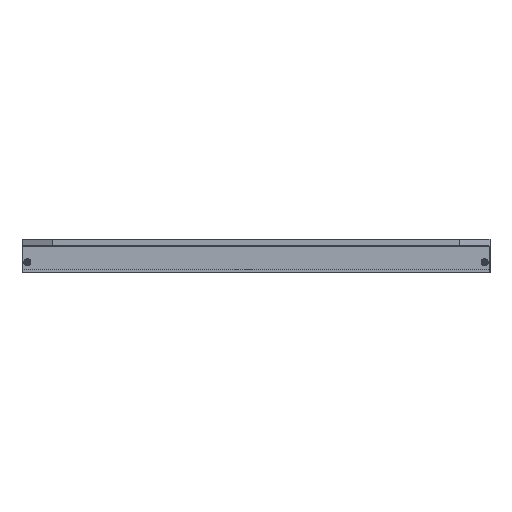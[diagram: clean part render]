
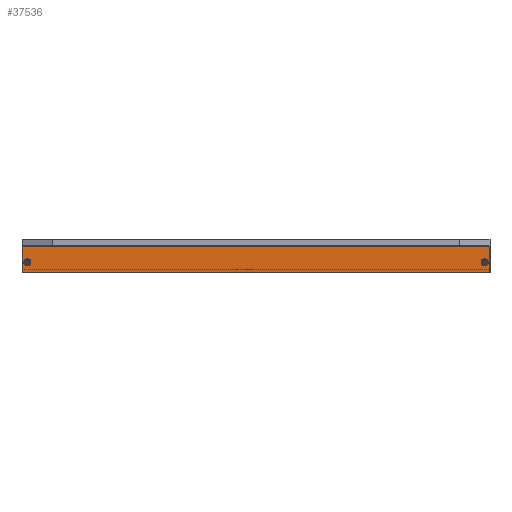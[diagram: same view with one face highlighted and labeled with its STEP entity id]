
A CAD part, front view. The second image highlights one B-rep face of the part: STEP entity #37536.
In plain terms, the highlighted planar face has unit normal (0, -1, 0).
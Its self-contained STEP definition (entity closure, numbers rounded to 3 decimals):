
#5261=DIRECTION('',(-1.,0.,0.));
#5262=VECTOR('',#5261,262.6);
#5263=CARTESIAN_POINT('',(131.3,-131.5,0.));
#5264=LINE('',#5263,#5262);
#11601=DIRECTION('',(0.,0.,-1.));
#11602=VECTOR('',#11601,14.8);
#11603=CARTESIAN_POINT('',(131.3,-131.5,0.));
#11604=LINE('',#11603,#11602);
#11605=CARTESIAN_POINT('',(-128.5,-131.5,-9.));
#11606=DIRECTION('',(0.,1.,0.));
#11607=DIRECTION('',(0.,0.,1.));
#11608=AXIS2_PLACEMENT_3D('',#11605,#11606,#11607);
#11610=CARTESIAN_POINT('',(-128.5,-131.5,-9.));
#11611=DIRECTION('',(0.,1.,0.));
#11612=DIRECTION('',(0.,0.,-1.));
#11613=AXIS2_PLACEMENT_3D('',#11610,#11611,#11612);
#11615=CARTESIAN_POINT('',(128.5,-131.5,-9.));
#11616=DIRECTION('',(0.,1.,0.));
#11617=DIRECTION('',(0.,0.,-1.));
#11618=AXIS2_PLACEMENT_3D('',#11615,#11616,#11617);
#11620=CARTESIAN_POINT('',(128.5,-131.5,-9.));
#11621=DIRECTION('',(0.,1.,0.));
#11622=DIRECTION('',(0.,0.,1.));
#11623=AXIS2_PLACEMENT_3D('',#11620,#11621,#11622);
#11625=DIRECTION('',(1.,0.,0.));
#11626=VECTOR('',#11625,262.6);
#11627=CARTESIAN_POINT('',(-131.3,-131.5,-14.8));
#11628=LINE('',#11627,#11626);
#11629=DIRECTION('',(0.,0.,-1.));
#11630=VECTOR('',#11629,14.8);
#11631=CARTESIAN_POINT('',(-131.3,-131.5,0.));
#11632=LINE('',#11631,#11630);
#16459=CARTESIAN_POINT('',(-131.3,-131.5,-14.8));
#16460=VERTEX_POINT('',#16459);
#16467=CARTESIAN_POINT('',(131.3,-131.5,-14.8));
#16468=VERTEX_POINT('',#16467);
#16469=CARTESIAN_POINT('',(128.5,-131.5,-7.));
#16470=CARTESIAN_POINT('',(128.5,-131.5,-11.));
#16471=VERTEX_POINT('',#16469);
#16472=VERTEX_POINT('',#16470);
#16473=CARTESIAN_POINT('',(-128.5,-131.5,-11.));
#16474=CARTESIAN_POINT('',(-128.5,-131.5,-7.));
#16475=VERTEX_POINT('',#16473);
#16476=VERTEX_POINT('',#16474);
#19821=CARTESIAN_POINT('',(-131.3,-131.5,0.));
#19823=VERTEX_POINT('',#19821);
#19824=CARTESIAN_POINT('',(131.3,-131.5,0.));
#19825=VERTEX_POINT('',#19824);
#37512=CARTESIAN_POINT('',(-131.5,-131.5,-15.));
#37513=DIRECTION('',(0.,-1.,0.));
#37514=DIRECTION('',(0.,0.,1.));
#37515=AXIS2_PLACEMENT_3D('',#37512,#37513,#37514);
#37516=PLANE('',#37515);
#37517=ORIENTED_EDGE('',*,*,#37507,.T.);
#37518=ORIENTED_EDGE('',*,*,#37477,.F.);
#37520=ORIENTED_EDGE('',*,*,#37519,.F.);
#37521=ORIENTED_EDGE('',*,*,#28047,.F.);
#37522=EDGE_LOOP('',(#37517,#37518,#37520,#37521));
#37523=FACE_OUTER_BOUND('',#37522,.F.);
#37525=ORIENTED_EDGE('',*,*,#37524,.F.);
#37527=ORIENTED_EDGE('',*,*,#37526,.F.);
#37528=EDGE_LOOP('',(#37525,#37527));
#37529=FACE_BOUND('',#37528,.F.);
#37531=ORIENTED_EDGE('',*,*,#37530,.F.);
#37533=ORIENTED_EDGE('',*,*,#37532,.F.);
#37534=EDGE_LOOP('',(#37531,#37533));
#37535=FACE_BOUND('',#37534,.F.);
#37536=ADVANCED_FACE('',(#37523,#37529,#37535),#37516,.T.);
#11609=CIRCLE('',#11608,2.);
#11614=CIRCLE('',#11613,2.);
#11619=CIRCLE('',#11618,2.);
#11624=CIRCLE('',#11623,2.);
#28047=EDGE_CURVE('',#19825,#19823,#5264,.T.);
#37477=EDGE_CURVE('',#16460,#16468,#11628,.T.);
#37507=EDGE_CURVE('',#19825,#16468,#11604,.T.);
#37519=EDGE_CURVE('',#19823,#16460,#11632,.T.);
#37524=EDGE_CURVE('',#16472,#16471,#11619,.T.);
#37526=EDGE_CURVE('',#16471,#16472,#11624,.T.);
#37530=EDGE_CURVE('',#16476,#16475,#11609,.T.);
#37532=EDGE_CURVE('',#16475,#16476,#11614,.T.);
